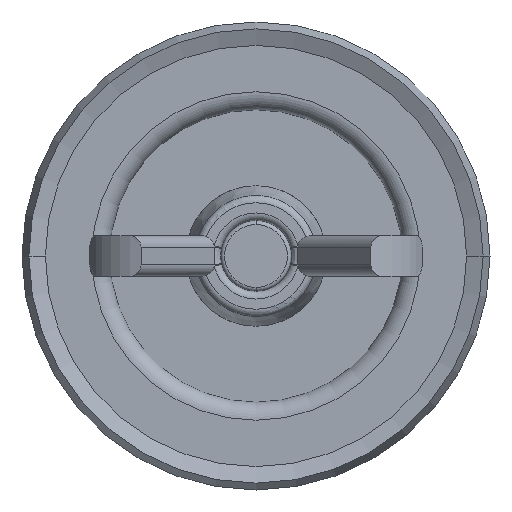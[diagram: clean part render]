
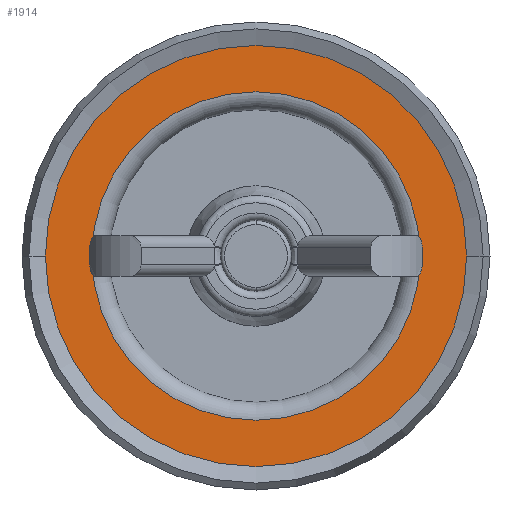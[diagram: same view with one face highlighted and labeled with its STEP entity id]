
A CAD part, front view. The second image highlights one B-rep face of the part: STEP entity #1914.
In plain terms, the highlighted planar face has unit normal (0, -1, 0).
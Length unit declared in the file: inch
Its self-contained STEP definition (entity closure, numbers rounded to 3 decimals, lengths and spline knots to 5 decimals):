
#1749=CARTESIAN_POINT('',(0.,0.,0.));
#1750=DIRECTION('',(0.,1.,0.));
#1751=DIRECTION('',(1.,0.,0.));
#1752=AXIS2_PLACEMENT_3D('',#1749,#1750,#1751);
#1754=CARTESIAN_POINT('',(0.,0.,0.));
#1755=DIRECTION('',(0.,-1.,0.));
#1756=DIRECTION('',(1.,0.,0.));
#1757=AXIS2_PLACEMENT_3D('',#1754,#1755,#1756);
#1847=CARTESIAN_POINT('',(0.,0.,0.));
#1848=DIRECTION('',(0.,1.,0.));
#1849=DIRECTION('',(1.,0.,0.));
#1850=AXIS2_PLACEMENT_3D('',#1847,#1848,#1849);
#1856=CARTESIAN_POINT('',(0.,0.,0.));
#1857=DIRECTION('',(0.,-1.,0.));
#1858=DIRECTION('',(1.,0.,0.));
#1859=AXIS2_PLACEMENT_3D('',#1856,#1857,#1858);
#1865=CARTESIAN_POINT('',(0.5625,0.,0.));
#1867=VERTEX_POINT('',#1865);
#1878=CARTESIAN_POINT('',(0.4386,0.,0.));
#1880=VERTEX_POINT('',#1878);
#1881=CARTESIAN_POINT('',(-0.5625,0.,0.));
#1883=VERTEX_POINT('',#1881);
#1894=CARTESIAN_POINT('',(-0.4386,0.,0.));
#1896=VERTEX_POINT('',#1894);
#1897=CARTESIAN_POINT('',(0.,0.,0.));
#1898=DIRECTION('',(0.,1.,0.));
#1899=DIRECTION('',(1.,0.,0.));
#1900=AXIS2_PLACEMENT_3D('',#1897,#1898,#1899);
#1901=PLANE('',#1900);
#1903=ORIENTED_EDGE('',*,*,#1902,.F.);
#1905=ORIENTED_EDGE('',*,*,#1904,.T.);
#1906=EDGE_LOOP('',(#1903,#1905));
#1907=FACE_OUTER_BOUND('',#1906,.F.);
#1909=ORIENTED_EDGE('',*,*,#1908,.F.);
#1911=ORIENTED_EDGE('',*,*,#1910,.T.);
#1912=EDGE_LOOP('',(#1909,#1911));
#1913=FACE_BOUND('',#1912,.F.);
#1753=CIRCLE('',#1752,0.4386);
#1758=CIRCLE('',#1757,0.4386);
#1851=CIRCLE('',#1850,0.5625);
#1860=CIRCLE('',#1859,0.5625);
#1902=EDGE_CURVE('',#1867,#1883,#1860,.T.);
#1904=EDGE_CURVE('',#1867,#1883,#1851,.T.);
#1908=EDGE_CURVE('',#1880,#1896,#1753,.T.);
#1910=EDGE_CURVE('',#1880,#1896,#1758,.T.);
#1914=ADVANCED_FACE('',(#1907,#1913),#1901,.F.);
